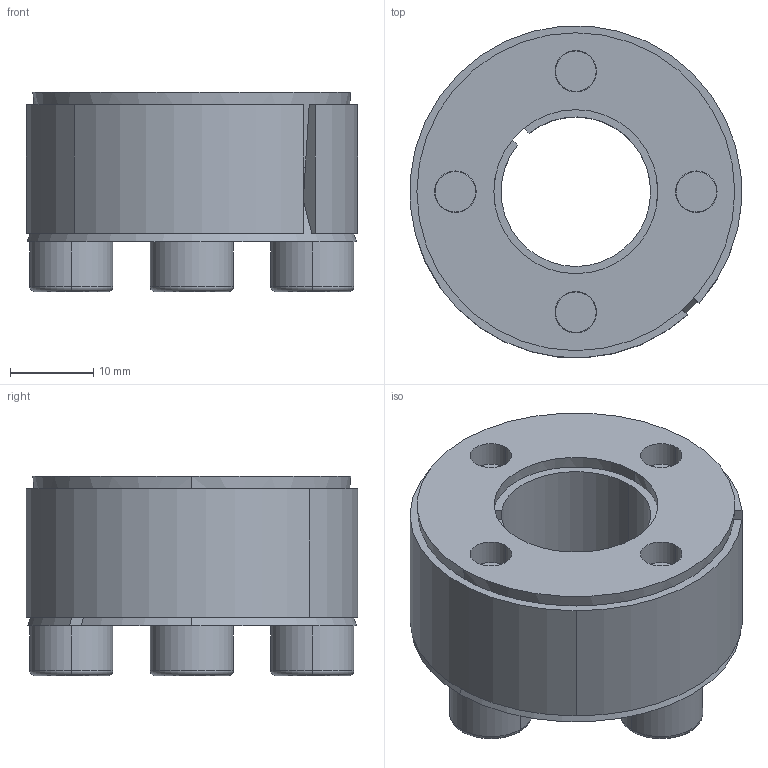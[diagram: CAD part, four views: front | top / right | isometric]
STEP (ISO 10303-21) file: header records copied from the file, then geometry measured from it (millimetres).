
FILE_DESCRIPTION (( 'STEP AP214' ), '1' );
FILE_NAME ('CONEX-L-18x40.step', '2019-09-25T09:58:46', ( '' ), ( '' ), 'SwSTEP 2.0', 'SolidWorks 2018', '' );
FILE_SCHEMA (( 'AUTOMOTIVE_DESIGN' ));
Length unit declared in the file: millimetre
Products named in the file (1): CONEX-L-18x40
Bounding box: 39.87 x 39.87 x 23.99 mm (x, y, z)
Volume: 16561.2 mm3; surface area: 14475.4 mm2
Topology: 7 solids, 7 shells, 161 faces, 371 edges, 224 vertices
Faces by surface type: plane 71, cylinder 42, cone 32, torus 16
Entity records: 6422 total; most frequent: DIRECTION 856, CARTESIAN_POINT 782, ORIENTED_EDGE 726, EDGE_CURVE 363, AXIS2_PLACEMENT_3D 339, VERTEX_POINT 224, EDGE_LOOP 191, VECTOR 178
